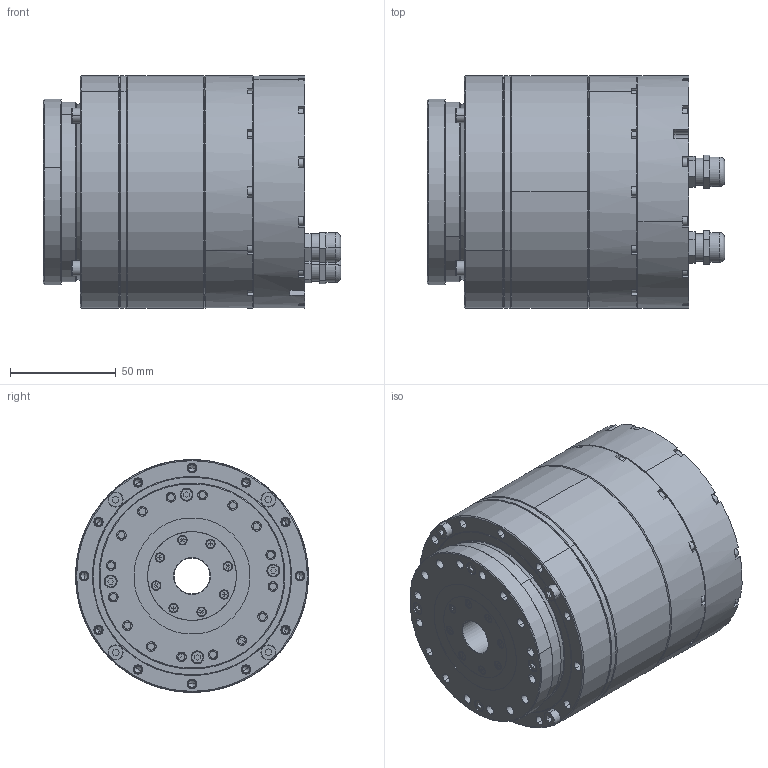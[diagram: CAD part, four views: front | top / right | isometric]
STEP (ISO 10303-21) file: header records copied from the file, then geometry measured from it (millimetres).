
FILE_DESCRIPTION (( 'STEP AP203' ), '1' );
FILE_NAME ('KAH-25CL3AE 軞蚾饜芞.step', '2020-09-26T01:39:17', ( '' ), ( '' ), 'SwSTEP 2.0', 'SolidWorks 2016', '' );
FILE_SCHEMA (( 'CONFIG_CONTROL_DESIGN' ));
Length unit declared in the file: millimetre
Products named in the file (1): KAH-25CL3AE 軞蚾饜芞
Bounding box: 140.5 x 110 x 110 mm (x, y, z)
Volume: 366349.6 mm3; surface area: 217952.7 mm2
Topology: 57 solids, 57 shells, 2198 faces, 5304 edges, 3271 vertices
Faces by surface type: cylinder 810, plane 669, cone 386, torus 213, sphere 112, bspline 8
Entity records: 67353 total; most frequent: CARTESIAN_POINT 14480, DIRECTION 11770, ORIENTED_EDGE 10400, EDGE_CURVE 5200, AXIS2_PLACEMENT_3D 4773, VERTEX_POINT 3271, EDGE_LOOP 2729, CIRCLE 2582
